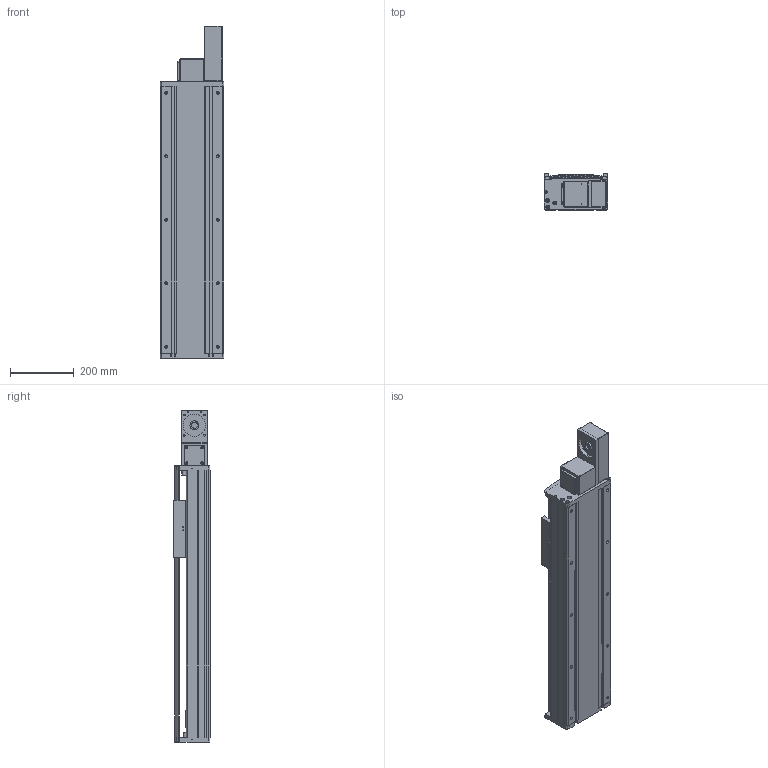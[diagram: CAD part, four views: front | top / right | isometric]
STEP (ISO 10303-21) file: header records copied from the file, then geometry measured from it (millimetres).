
FILE_DESCRIPTION(/* description */ (''),/* implementation_level */ '2;1');
FILE_NAME(/* name */ 'TKB200-FL-600_asm1.stp',/* time_stamp */ '2016-05-18T11:04:26+08:00',/* author */ (''),/* organization */ (''),/* preprocessor_version */ 'ST-DEVELOPER v15',/* originating_system */ 'SIEMENS PLM Software NX 8.5',/* authorisation */ '');
FILE_SCHEMA (('AUTOMOTIVE_DESIGN { 1 0 10303 214 3 1 1 1 }'));
Length unit declared in the file: millimetre
Products named in the file (3): 200-2; 200-1; TKB200-FL-600_asm1
Assembly tree (2 placements, depth 2):
  TKB200-FL-600_asm1
    200-1
    200-2
Bounding box: 200 x 115 x 1045 mm (x, y, z)
Volume: 6372841 mm3; surface area: 1929717.8 mm2
Topology: 2 solids, 3 shells, 995 faces, 2784 edges, 1789 vertices
Faces by surface type: plane 461, cylinder 448, cone 70, bspline 16
Full cylindrical faces by diameter (mm): 2.5 x2, 3.3 x16, 4.3 x4, 4.5 x8, 5 x2, 6.6 x34, 6.8 x8, 8 x6, 9 x18, 10 x4, 11 x22, 12 x16, 14 x10, 36 x1, 42 x2, 75 x1
Entity records: 33338 total; most frequent: CARTESIAN_POINT 8501, DIRECTION 5115, ORIENTED_EDGE 4942, EDGE_CURVE 2471, AXIS2_PLACEMENT_3D 1858, VERTEX_POINT 1702, LINE 1399, VECTOR 1399
